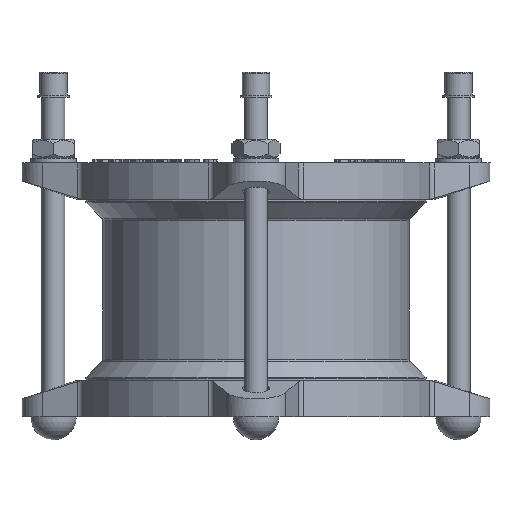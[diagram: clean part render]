
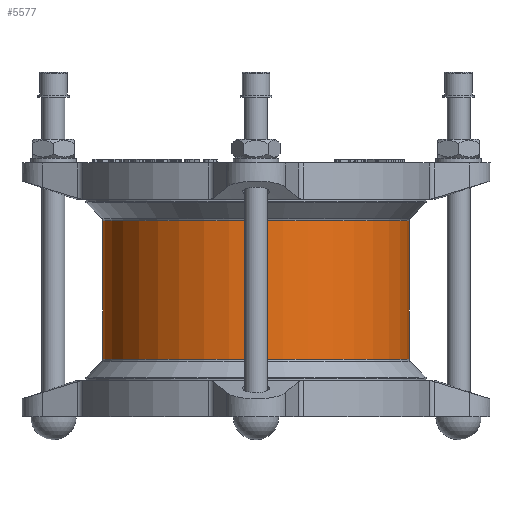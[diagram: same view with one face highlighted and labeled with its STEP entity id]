
A CAD part, front view. The second image highlights one B-rep face of the part: STEP entity #5577.
In plain terms, the highlighted cylindrical face has radius 80.5 mm (diameter 161 mm), a full revolution.
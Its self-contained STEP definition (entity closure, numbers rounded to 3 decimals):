
#5577=ADVANCED_FACE('',(#10279,#10281),#10283,.T.);
#10279=FACE_OUTER_BOUND('',#10280,.T.);
#10280=EDGE_LOOP('',(#15339));
#10281=FACE_OUTER_BOUND('',#10282,.T.);
#10282=EDGE_LOOP('',(#15340));
#10283=CYLINDRICAL_SURFACE('',#10284,80.5);
#10284=AXIS2_PLACEMENT_3D('',#10285,#10286,#10287);
#10285=CARTESIAN_POINT('',(0.,0.,37.172));
#10286=DIRECTION('',(0.,0.,-1.));
#10287=DIRECTION('',(0.,1.,0.));
#15339=ORIENTED_EDGE('',*,*,#17501,.T.);
#15340=ORIENTED_EDGE('',*,*,#17502,.F.);
#17501=EDGE_CURVE('',#20453,#20453,#20454,.T.);
#17502=EDGE_CURVE('',#20455,#20455,#20456,.T.);
#20453=VERTEX_POINT('',#29344);
#20454=CIRCLE('',#29345,80.5);
#20455=VERTEX_POINT('',#29349);
#20456=CIRCLE('',#29350,80.5);
#29344=CARTESIAN_POINT('',(0.,80.5,36.343));
#29345=AXIS2_PLACEMENT_3D('',#29346,#29347,#29348);
#29346=CARTESIAN_POINT('',(0.,0.,36.343));
#29347=DIRECTION('',(0.,0.,-1.));
#29348=DIRECTION('',(0.,1.,0.));
#29349=CARTESIAN_POINT('',(0.,80.5,-36.343));
#29350=AXIS2_PLACEMENT_3D('',#29351,#29352,#29353);
#29351=CARTESIAN_POINT('',(0.,0.,-36.343));
#29352=DIRECTION('',(0.,0.,-1.));
#29353=DIRECTION('',(0.,1.,0.));
